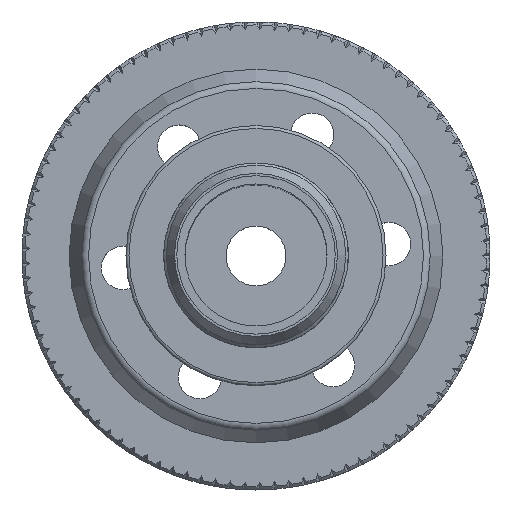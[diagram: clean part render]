
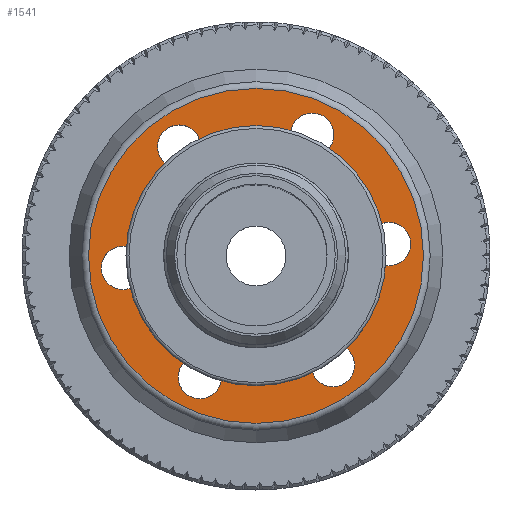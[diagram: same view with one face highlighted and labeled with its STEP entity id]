
A CAD part, top view. The second image highlights one B-rep face of the part: STEP entity #1541.
In plain terms, the highlighted planar face has unit normal (0, 0, 1).
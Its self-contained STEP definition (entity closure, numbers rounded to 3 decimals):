
#1049=PLANE('',#7537);
#1342=FACE_BOUND('',#2331,.T.);
#1343=FACE_BOUND('',#2332,.T.);
#1344=FACE_BOUND('',#2333,.T.);
#1345=FACE_BOUND('',#2334,.T.);
#1346=FACE_BOUND('',#2335,.T.);
#1347=FACE_BOUND('',#2336,.T.);
#1348=FACE_BOUND('',#2337,.T.);
#1349=FACE_BOUND('',#2338,.T.);
#1541=ADVANCED_FACE('',(#1342,#1343,#1344,#1345,#1346,#1347,#1348,#1349),
#1049,.T.);
#2331=EDGE_LOOP('',(#3509));
#2332=EDGE_LOOP('',(#3510));
#2333=EDGE_LOOP('',(#3511));
#2334=EDGE_LOOP('',(#3512));
#2335=EDGE_LOOP('',(#3513));
#2336=EDGE_LOOP('',(#3514));
#2337=EDGE_LOOP('',(#3515));
#2338=EDGE_LOOP('',(#3516));
#2904=CIRCLE('',#7529,7.35);
#2905=CIRCLE('',#7530,1.45);
#2906=CIRCLE('',#7531,1.45);
#2907=CIRCLE('',#7532,1.45);
#2908=CIRCLE('',#7533,1.45);
#2909=CIRCLE('',#7534,1.45);
#2910=CIRCLE('',#7535,1.45);
#2911=CIRCLE('',#7536,11.202);
#3509=ORIENTED_EDGE('',*,*,#6356,.T.);
#3510=ORIENTED_EDGE('',*,*,#6357,.F.);
#3511=ORIENTED_EDGE('',*,*,#6358,.F.);
#3512=ORIENTED_EDGE('',*,*,#6359,.F.);
#3513=ORIENTED_EDGE('',*,*,#6360,.F.);
#3514=ORIENTED_EDGE('',*,*,#6361,.F.);
#3515=ORIENTED_EDGE('',*,*,#6362,.F.);
#3516=ORIENTED_EDGE('',*,*,#6363,.T.);
#5618=VERTEX_POINT('',#12230);
#5619=VERTEX_POINT('',#12232);
#5620=VERTEX_POINT('',#12234);
#5621=VERTEX_POINT('',#12236);
#5622=VERTEX_POINT('',#12238);
#5623=VERTEX_POINT('',#12240);
#5624=VERTEX_POINT('',#12242);
#5625=VERTEX_POINT('',#12244);
#6356=EDGE_CURVE('',#5618,#5618,#2904,.T.);
#6357=EDGE_CURVE('',#5619,#5619,#2905,.T.);
#6358=EDGE_CURVE('',#5620,#5620,#2906,.T.);
#6359=EDGE_CURVE('',#5621,#5621,#2907,.T.);
#6360=EDGE_CURVE('',#5622,#5622,#2908,.T.);
#6361=EDGE_CURVE('',#5623,#5623,#2909,.T.);
#6362=EDGE_CURVE('',#5624,#5624,#2910,.T.);
#6363=EDGE_CURVE('',#5625,#5625,#2911,.T.);
#7529=AXIS2_PLACEMENT_3D('',#12229,#8877,#8878);
#7530=AXIS2_PLACEMENT_3D('',#12231,#8879,#8880);
#7531=AXIS2_PLACEMENT_3D('',#12233,#8881,#8882);
#7532=AXIS2_PLACEMENT_3D('',#12235,#8883,#8884);
#7533=AXIS2_PLACEMENT_3D('',#12237,#8885,#8886);
#7534=AXIS2_PLACEMENT_3D('',#12239,#8887,#8888);
#7535=AXIS2_PLACEMENT_3D('',#12241,#8889,#8890);
#7536=AXIS2_PLACEMENT_3D('',#12243,#8891,#8892);
#7537=AXIS2_PLACEMENT_3D('',#12245,#8893,#8894);
#8877=DIRECTION('',(0.,0.,-1.));
#8878=DIRECTION('',(0.,-1.,0.));
#8879=DIRECTION('',(0.,0.,1.));
#8880=DIRECTION('',(0.,-1.,0.));
#8881=DIRECTION('',(0.,0.,1.));
#8882=DIRECTION('',(0.,-1.,0.));
#8883=DIRECTION('',(0.,0.,1.));
#8884=DIRECTION('',(0.,-1.,0.));
#8885=DIRECTION('',(0.,0.,1.));
#8886=DIRECTION('',(0.,-1.,0.));
#8887=DIRECTION('',(0.,0.,1.));
#8888=DIRECTION('',(0.,-1.,0.));
#8889=DIRECTION('',(0.,0.,1.));
#8890=DIRECTION('',(0.,-1.,0.));
#8891=DIRECTION('',(0.,0.,1.));
#8892=DIRECTION('',(0.,-1.,0.));
#8893=DIRECTION('',(0.,0.,1.));
#8894=DIRECTION('',(0.,-1.,0.));
#12229=CARTESIAN_POINT('',(0.,0.,42.65));
#12230=CARTESIAN_POINT('',(0.,-7.35,42.65));
#12231=CARTESIAN_POINT('',(-8.9,-0.8,42.65));
#12232=CARTESIAN_POINT('',(-8.9,-2.25,42.65));
#12233=CARTESIAN_POINT('',(-5.143,7.308,42.65));
#12234=CARTESIAN_POINT('',(-5.143,5.858,42.65));
#12235=CARTESIAN_POINT('',(3.757,8.108,42.65));
#12236=CARTESIAN_POINT('',(3.757,6.658,42.65));
#12237=CARTESIAN_POINT('',(8.9,0.8,42.65));
#12238=CARTESIAN_POINT('',(8.9,-0.65,42.65));
#12239=CARTESIAN_POINT('',(5.143,-7.308,42.65));
#12240=CARTESIAN_POINT('',(5.143,-8.758,42.65));
#12241=CARTESIAN_POINT('',(-3.757,-8.108,42.65));
#12242=CARTESIAN_POINT('',(-3.757,-9.558,42.65));
#12243=CARTESIAN_POINT('',(0.,0.,42.65));
#12244=CARTESIAN_POINT('',(0.,-11.202,42.65));
#12245=CARTESIAN_POINT('',(0.,11.4,42.65));
